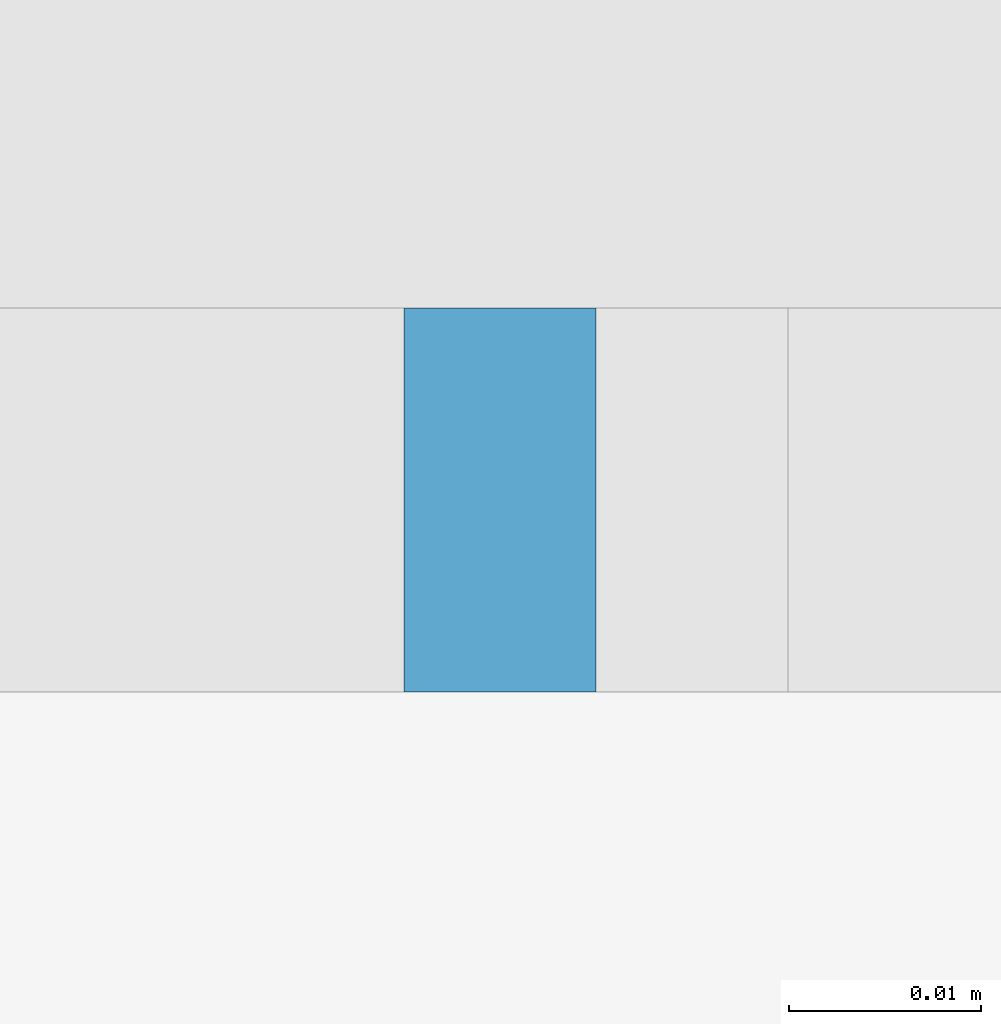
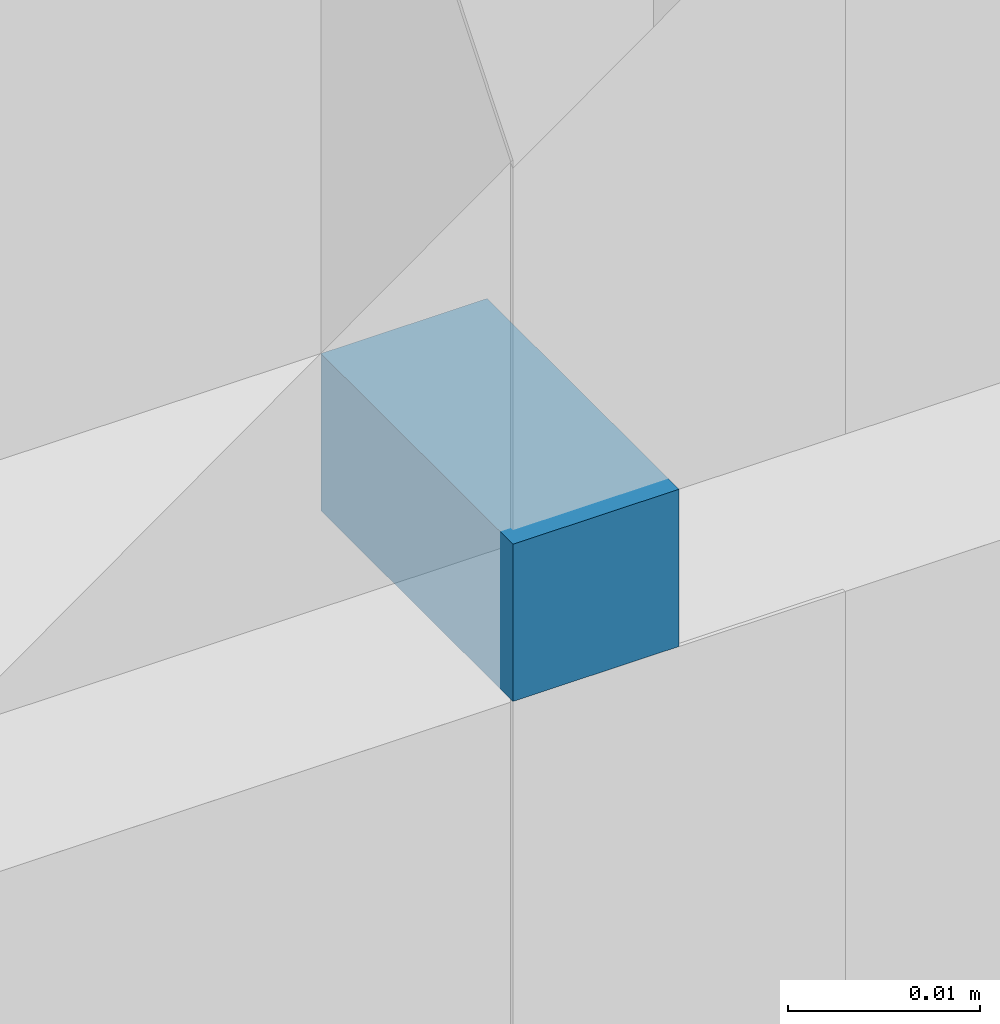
# One storey, part 16 of 49: 1 plate, 1 element without a shape of its own.
"""IFC2X3 building model written with IfcOpenShell, lengths in millimetres."""

import ifcopenshell
import ifcopenshell.guid

model = None  # the IFC model being written
_history = None  # IfcOwnerHistory: only IFC2X3 demands one
_inside = {}  # id of a spatial element -> (the spatial element, [elements in it])
_under = {}  # id of a project, library or spatial element -> (it, [spatial elements below it])
_declared = {}  # id of a project -> (the project, [libraries it declares])
_typed = {}  # id of a type object -> (the type object, [elements of that type])
_made_of = {}  # id of a material, layer set ... -> (it, [elements and type objects made of it])


def new_model(schema):
    """Start an empty IFC model of exactly this schema.

    Asked for "IFC4X3", IfcOpenShell would pick the latest addendum, in which some entities
    have other attributes; the version numbers below select the first issue.
    IFC2X3 requires an IfcOwnerHistory on every rooted entity: one is made here for all.
    """
    global model, _history
    if schema == "IFC4X3":
        model = ifcopenshell.file(schema_version=(4, 3, 0, 0))
    else:
        model = ifcopenshell.file(schema=schema)
    _inside.clear()
    _under.clear()
    _declared.clear()
    _typed.clear()
    _made_of.clear()
    _history = None
    if model.schema == "IFC2X3":
        org = make("IfcOrganization", Name="unknown")
        user = make(
            "IfcPersonAndOrganization",
            ThePerson=make("IfcPerson", FamilyName="unknown"),
            TheOrganization=org,
        )
        app = make(
            "IfcApplication",
            ApplicationDeveloper=org,
            Version="unknown",
            ApplicationFullName="unknown",
            ApplicationIdentifier="unknown",
        )
        _history = make(
            "IfcOwnerHistory",
            OwningUser=user,
            OwningApplication=app,
            ChangeAction="ADDED",
            CreationDate=0,
        )
    return model


def make(cls, **values):
    """One entity of the class cls with the attributes given. An attribute that is None is left unset."""
    return model.create_entity(
        cls, **{name: value for name, value in values.items() if value is not None}
    )


def entity(cls, *values):
    """Any entity or typed value of the class cls, its attributes in the order of the schema. None: left unset."""
    e = model.create_entity(cls)
    for i, value in enumerate(values):
        if value is not None:
            e[i] = value
    return e


def rooted(cls, **values):
    """An entity with a GlobalId (a new one), such as an element, a storey or a relation."""
    return make(cls, GlobalId=ifcopenshell.guid.new(), OwnerHistory=_history, **values)


def si_unit(unit_type, name, prefix=None):
    """IfcSIUnit, for example si_unit("LENGTHUNIT", "METRE", prefix="MILLI")."""
    return make("IfcSIUnit", UnitType=unit_type, Prefix=prefix, Name=name)


def converted_unit(unit_type, name, factor, base, dimensions=None, offset=None):
    """IfcConversionBasedUnit, such as the inch: factor (a typed value) times the base unit."""
    return make(
        "IfcConversionBasedUnit"
        if offset is None
        else "IfcConversionBasedUnitWithOffset",
        ConversionOffset=offset,
        Dimensions=None
        if dimensions is None
        else entity("IfcDimensionalExponents", *dimensions),
        UnitType=unit_type,
        Name=name,
        ConversionFactor=make(
            "IfcMeasureWithUnit", ValueComponent=factor, UnitComponent=base
        ),
    )


def derived_unit(unit_type, elements):
    """IfcDerivedUnit: a product of units, each with its exponent."""
    return make(
        "IfcDerivedUnit",
        Elements=[
            make("IfcDerivedUnitElement", Unit=unit, Exponent=power)
            for unit, power in elements
        ],
        UnitType=unit_type,
    )


def assignment(units):
    """IfcUnitAssignment: the units of a project."""
    return None if units is None else make("IfcUnitAssignment", Units=units)


def point(xyz):
    """IfcCartesianPoint."""
    return None if xyz is None else make("IfcCartesianPoint", Coordinates=xyz)


def direction(xyz):
    """IfcDirection."""
    return None if xyz is None else make("IfcDirection", DirectionRatios=xyz)


def frame(location, z_axis=None, x_axis=None):
    """IfcAxis2Placement3D, a coordinate frame: its origin and axes. An axis left out is left unset."""
    return make(
        "IfcAxis2Placement3D",
        Location=point(location),
        Axis=direction(z_axis),
        RefDirection=direction(x_axis),
    )


def frame_2d(location, x_axis=None):
    """IfcAxis2Placement2D, a coordinate frame in the plane: its origin and x axis."""
    return make(
        "IfcAxis2Placement2D", Location=point(location), RefDirection=direction(x_axis)
    )


def origin():
    """The frame at (0, 0, 0) with its axes left unset."""
    return frame((0.0, 0.0, 0.0))


def origin_2d_with_axis():
    """The frame at (0, 0) in the plane with the x axis (1, 0) written out."""
    return frame_2d((0.0, 0.0), x_axis=(1.0, 0.0))


def place(relative_to, where):
    """IfcLocalPlacement: puts the frame where relative to a parent placement (None: the world)."""
    return make(
        "IfcLocalPlacement", PlacementRelTo=relative_to, RelativePlacement=where
    )


def context(
    kind, dimensions, precision=None, world=None, true_north=None, identifier=None
):
    """IfcGeometricRepresentationContext, for example the 3D "Model" context."""
    return make(
        "IfcGeometricRepresentationContext",
        ContextIdentifier=identifier,
        ContextType=kind,
        CoordinateSpaceDimension=dimensions,
        Precision=precision,
        WorldCoordinateSystem=world,
        TrueNorth=true_north,
    )


def subcontext(parent, identifier, kind, view, scale=None):
    """IfcGeometricRepresentationSubContext, for example "Body" below "Model"."""
    return make(
        "IfcGeometricRepresentationSubContext",
        ContextIdentifier=identifier,
        ContextType=kind,
        ParentContext=parent,
        TargetScale=scale,
        TargetView=view,
    )


def project(units=None, contexts=None):
    """IfcProject with its units and contexts."""
    return rooted(
        "IfcProject",
        Name="project",
        RepresentationContexts=contexts,
        UnitsInContext=assignment(units),
    )


def spatial(cls, under=None, at=None, **own):
    """A site, building, storey or space (cls), placed at a placement, below another one or the project."""
    s = rooted(cls, ObjectPlacement=at, **own)
    if under is not None:
        _under.setdefault(under.id(), (under, []))[1].append(s)
    return s


def profile(cls, at=None, kind="AREA", **sizes):
    """A parametric profile (cls). Its sizes go by their IFC names, for example OverallWidth=200.0."""
    return make(cls, ProfileType=kind, Position=at, **sizes)


def rectangle(**sizes):
    """IfcRectangleProfileDef."""
    return profile("IfcRectangleProfileDef", **sizes)


def extrude(swept, where, along, depth):
    """IfcExtrudedAreaSolid: the profile swept, set in the frame where, extruded along a direction by depth."""
    return make(
        "IfcExtrudedAreaSolid",
        SweptArea=swept,
        Position=where,
        ExtrudedDirection=direction(along),
        Depth=depth,
    )


def shape(context_of_items, identifier, shape_type, items):
    """IfcShapeRepresentation: the items that make up one representation, for example the "Body"."""
    return make(
        "IfcShapeRepresentation",
        ContextOfItems=context_of_items,
        RepresentationIdentifier=identifier,
        RepresentationType=shape_type,
        Items=items,
    )


def source(mapping_origin, context_of_items, identifier, shape_type, items):
    """IfcRepresentationMap: a shape defined once, which mapped items show again and again."""
    return make(
        "IfcRepresentationMap",
        MappingOrigin=mapping_origin,
        MappedRepresentation=shape(context_of_items, identifier, shape_type, items),
    )


def transform(
    local_origin,
    x_axis=None,
    y_axis=None,
    z_axis=None,
    scale=None,
    scale2=None,
    scale3=None,
    uniform=True,
):
    """IfcCartesianTransformationOperator3D, or its non-uniform kind. x_axis, y_axis, z_axis: its Axis1, 2, 3."""
    if uniform:
        return make(
            "IfcCartesianTransformationOperator3D",
            Axis1=direction(x_axis),
            Axis2=direction(y_axis),
            LocalOrigin=point(local_origin),
            Scale=scale,
            Axis3=direction(z_axis),
        )
    return make(
        "IfcCartesianTransformationOperator3DnonUniform",
        Axis1=direction(x_axis),
        Axis2=direction(y_axis),
        LocalOrigin=point(local_origin),
        Scale=scale,
        Axis3=direction(z_axis),
        Scale2=scale2,
        Scale3=scale3,
    )


def mapped(mapping_source, mapping_target):
    """IfcMappedItem: shows the shape of a source again, moved by a transform."""
    return make(
        "IfcMappedItem", MappingSource=mapping_source, MappingTarget=mapping_target
    )


def material(Name=None, Category=None):
    """IfcMaterial."""
    return make("IfcMaterial", Name=Name, Category=Category)


def layer(
    of_material, thickness, ventilated=None, Name=None, Category=None, Priority=None
):
    """IfcMaterialLayer: one layer of a wall or slab, of a material (None: an air gap)."""
    return make(
        "IfcMaterialLayer",
        Material=of_material,
        LayerThickness=thickness,
        IsVentilated=ventilated,
        Name=Name,
        Category=Category,
        Priority=Priority,
    )


def layer_set(layers, Name=None):
    """IfcMaterialLayerSet."""
    return make("IfcMaterialLayerSet", MaterialLayers=layers, LayerSetName=Name)


def layer_usage(for_layer_set, set_direction, sense, offset, extent=None):
    """IfcMaterialLayerSetUsage: how a layer set lies in its element."""
    return make(
        "IfcMaterialLayerSetUsage",
        ForLayerSet=for_layer_set,
        LayerSetDirection=set_direction,
        DirectionSense=sense,
        OffsetFromReferenceLine=offset,
        ReferenceExtent=extent,
    )


def made_of(thing, what):
    """Note that an element or type object is made of a material, layer set ...; save() writes the relation."""
    if what is not None:
        _made_of.setdefault(what.id(), (what, []))[1].append(thing)
    return thing


def type_object(cls, material=None, **own):
    """A type object (cls), such as IfcWallType, which elements share."""
    return made_of(rooted(cls, **own), material)


def type_shapes(of_type, sources):
    """Give a type object the sources (RepresentationMaps) that its elements show as mapped items."""
    of_type.RepresentationMaps = sources


def element(
    cls,
    number,
    at=None,
    inside=None,
    cuts=None,
    type_object=None,
    material=None,
    context=None,
    identifier="Body",
    shape_type=None,
    held_by="IfcProductDefinitionShape",
    body=None,
    shapes=None,
    **own,
):
    """One element of the class cls, such as IfcWall. Its Tag is "e" and its number.

    at: its placement. inside: the storey or other place that contains it. cuts: it is an
    opening in that element (IfcRelVoidsElement). A single representation is given by context,
    identifier, shape_type and body (its items); several are given by shapes. held_by: the class
    of the entity that holds the representations. save() writes the other relations.
    """
    e = rooted(cls, Tag="e%d" % number, ObjectPlacement=at, **own)
    if body is not None:
        shapes = [shape(context, identifier, shape_type, body)]
    if shapes is not None:
        e.Representation = make(held_by, Representations=shapes)
    if inside is not None:
        _inside.setdefault(inside.id(), (inside, []))[1].append(e)
    if cuts is not None:
        rooted(
            "IfcRelVoidsElement", RelatingBuildingElement=cuts, RelatedOpeningElement=e
        )
    if type_object is not None:
        _typed.setdefault(type_object.id(), (type_object, []))[1].append(e)
    return made_of(e, material)


def aggregate(whole, parts):
    """IfcRelAggregates: a whole, such as a stair, and the parts it consists of."""
    return rooted("IfcRelAggregates", RelatingObject=whole, RelatedObjects=parts)


def save(model, path):
    """Write the relations noted so far, then the file.

    IfcRelAggregates (storeys below a building ...), IfcRelContainedInSpatialStructure (elements
    in a storey), IfcRelDefinesByType, IfcRelAssociatesMaterial and IfcRelDeclares: one each for
    every whole, place, type object, material and project.
    """
    for whole, parts in _under.values():
        aggregate(whole, parts)
    for where, things in _inside.values():
        rooted(
            "IfcRelContainedInSpatialStructure",
            RelatedElements=things,
            RelatingStructure=where,
        )
    for kind, things in _typed.values():
        rooted("IfcRelDefinesByType", RelatedObjects=things, RelatingType=kind)
    for what, things in _made_of.values():
        rooted("IfcRelAssociatesMaterial", RelatedObjects=things, RelatingMaterial=what)
    for by, libraries in _declared.values():
        rooted("IfcRelDeclares", RelatingContext=by, RelatedDefinitions=libraries)
    model.write(path)


model = new_model("IFC2X3")

# Units and contexts
model_context = context("Model", 3, precision=0.01, world=origin(), true_north=direction((6.12303176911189e-17, 1.0)))
body_context = subcontext(model_context, "Body", "Model", "MODEL_VIEW")
ifc_project = project(units=[si_unit("LENGTHUNIT", "METRE", prefix="MILLI"), si_unit("AREAUNIT", "SQUARE_METRE"), si_unit("VOLUMEUNIT", "CUBIC_METRE"), converted_unit("PLANEANGLEUNIT", "DEGREE", entity("IfcRatioMeasure", 0.0174532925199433), si_unit("PLANEANGLEUNIT", "RADIAN"), dimensions=[0, 0, 0, 0, 0, 0, 0]), si_unit("MASSUNIT", "GRAM", prefix="KILO"), derived_unit("MASSDENSITYUNIT", [(si_unit("MASSUNIT", "GRAM", prefix="KILO"), 1), (si_unit("LENGTHUNIT", "METRE"), -3)]), si_unit("TIMEUNIT", "SECOND"), si_unit("FREQUENCYUNIT", "HERTZ"), si_unit("THERMODYNAMICTEMPERATUREUNIT", "DEGREE_CELSIUS"), derived_unit("THERMALTRANSMITTANCEUNIT", [(si_unit("MASSUNIT", "GRAM", prefix="KILO"), 1), (si_unit("THERMODYNAMICTEMPERATUREUNIT", "KELVIN"), -1), (si_unit("TIMEUNIT", "SECOND"), -3)]), derived_unit("VOLUMETRICFLOWRATEUNIT", [(si_unit("LENGTHUNIT", "METRE"), 3), (si_unit("TIMEUNIT", "SECOND"), -1)]), si_unit("ELECTRICCURRENTUNIT", "AMPERE"), si_unit("ELECTRICVOLTAGEUNIT", "VOLT"), si_unit("POWERUNIT", "WATT"), si_unit("FORCEUNIT", "NEWTON", prefix="KILO"), si_unit("ILLUMINANCEUNIT", "LUX"), si_unit("LUMINOUSFLUXUNIT", "LUMEN"), si_unit("LUMINOUSINTENSITYUNIT", "CANDELA"), derived_unit("USERDEFINED", [(si_unit("MASSUNIT", "GRAM", prefix="KILO"), -1), (si_unit("LENGTHUNIT", "METRE"), -2), (si_unit("TIMEUNIT", "SECOND"), 3), (si_unit("LUMINOUSFLUXUNIT", "LUMEN"), 1)]), derived_unit("LINEARVELOCITYUNIT", [(si_unit("LENGTHUNIT", "METRE"), 1), (si_unit("TIMEUNIT", "SECOND"), -1)]), si_unit("PRESSUREUNIT", "PASCAL"), derived_unit("USERDEFINED", [(si_unit("LENGTHUNIT", "METRE"), -2), (si_unit("MASSUNIT", "GRAM", prefix="KILO"), 1), (si_unit("TIMEUNIT", "SECOND"), -2)])], contexts=[model_context])

# Site, building, storey
site_placement = place(None, frame((-151.875543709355, 2715.0, 0.0)))
site = spatial("IfcSite", under=ifc_project, at=site_placement, Name="Surface", CompositionType="ELEMENT")
building_placement = place(site_placement, origin())
building = spatial("IfcBuilding", under=site, at=building_placement, CompositionType="ELEMENT")
storey_placement = place(building_placement, origin())
storey = spatial("IfcBuildingStorey", under=building, at=storey_placement, Name="1 korrus", CompositionType="ELEMENT", Elevation=3.0969999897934e-10)

# Curtain wall, plate
curtain_wall_type = type_object("IfcCurtainWallType", Name="Curtain Wall:Klaassein KLS-02", PredefinedType="NOTDEFINED")
curtain_wall_placement = place(storey_placement, origin())
curtain_wall = element("IfcCurtainWall", 1, at=curtain_wall_placement, inside=storey, type_object=curtain_wall_type, Name="Curtain Wall:Klaassein KLS-02", ObjectType="Curtain Wall:Klaassein KLS-02")
ifc_material = material(Name="<Unnamed>")
ifc_layer = layer(ifc_material, 20.0)
ifc_layer_set = layer_set([ifc_layer], Name="Curtain Wall:Klaassein KLS-01")
ifc_layer_usage = layer_usage(ifc_layer_set, "AXIS3", "POSITIVE", 0.0)
plate_type = type_object("IfcPlateType", Name="Glazed", PredefinedType="CURTAIN_PANEL", material=ifc_layer_set)
shared_shape = source(origin(), body_context, "Body", "SweptSolid", [
    extrude(rectangle(XDim=20.0, YDim=9.99999999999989, at=origin_2d_with_axis()), frame((0.0, 0.0, 0.0), z_axis=(0.0, 0.0, 1.0), x_axis=(0.0, 1.0, 0.0)), (0.0, 0.0, 1.0), 9.99999999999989),
])
type_shapes(plate_type, [shared_shape])
plate_placement = place(curtain_wall_placement, frame((16043.2710847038, 3017.50000000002, 2090.0), z_axis=(0.0, 0.0, 1.0), x_axis=(-1.0, 0.0, 0.0)))
plate = element("IfcPlate", 2, at=plate_placement, type_object=plate_type, material=ifc_layer_usage, Name="System Panel:Glazed", ObjectType="Glazed", context=body_context, shape_type="MappedRepresentation", body=[
    mapped(shared_shape, transform((0.0, 0.0, 0.0), scale=1.0)),
])
aggregate(curtain_wall, [plate])

save(model, "model.ifc")
